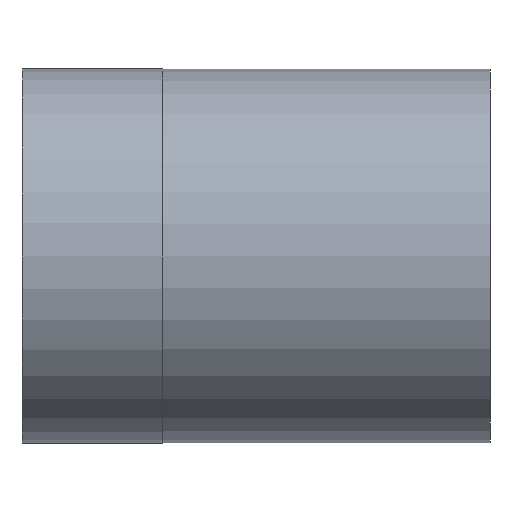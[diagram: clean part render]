
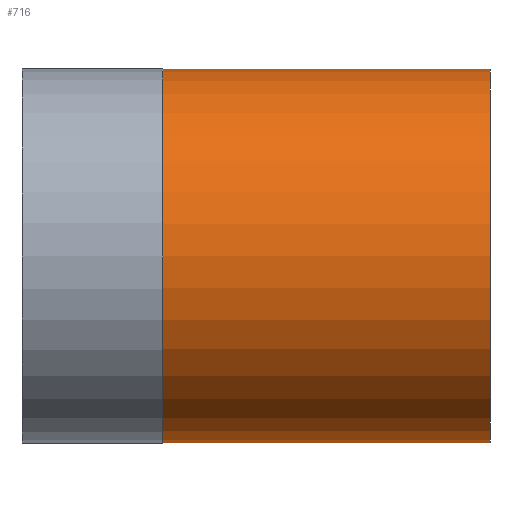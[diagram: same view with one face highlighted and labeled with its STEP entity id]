
A CAD part, left-side view. The second image highlights one B-rep face of the part: STEP entity #716.
In plain terms, the highlighted cylindrical face has radius 7.98 mm (diameter 15.96 mm), a partial arc.
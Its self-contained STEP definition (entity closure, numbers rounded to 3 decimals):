
#34 = CARTESIAN_POINT ( 'NONE',  ( 0., -20.255, 7.98 ) ) ;
#35 = LINE ( 'NONE', #34, #173 ) ;
#47 = DIRECTION ( 'NONE',  ( 0., -1., 0. ) ) ;
#48 = VECTOR ( 'NONE', #47, 1000. ) ;
#49 = CARTESIAN_POINT ( 'NONE',  ( 0., -20.255, -7.98 ) ) ;
#50 = LINE ( 'NONE', #49, #48 ) ;
#111 = DIRECTION ( 'NONE',  ( 0., 0., -1. ) ) ;
#112 = DIRECTION ( 'NONE',  ( 0., -1., 0. ) ) ;
#113 = AXIS2_PLACEMENT_3D ( 'NONE', #118, #112, #111 ) ;
#114 = CIRCLE ( 'NONE', #113, 7.98 ) ;
#115 = DIRECTION ( 'NONE',  ( 0., 0., -1. ) ) ;
#116 = DIRECTION ( 'NONE',  ( 0., -1., 0. ) ) ;
#117 = CYLINDRICAL_SURFACE ( 'NONE', #119, 7.98 ) ;
#118 = CARTESIAN_POINT ( 'NONE',  ( 0., 0., 0. ) ) ;
#119 = AXIS2_PLACEMENT_3D ( 'NONE', #125, #116, #115 ) ;
#120 = FACE_OUTER_BOUND ( 'NONE', #718, .T. ) ;
#125 = CARTESIAN_POINT ( 'NONE',  ( 0., -20.255, 0. ) ) ;
#172 = DIRECTION ( 'NONE',  ( 0., -1., 0. ) ) ;
#173 = VECTOR ( 'NONE', #172, 1000. ) ;
#635 = VERTEX_POINT ( 'NONE', #1254 ) ;
#640 = VERTEX_POINT ( 'NONE', #1214 ) ;
#641 = VERTEX_POINT ( 'NONE', #1213 ) ;
#645 = VERTEX_POINT ( 'NONE', #1210 ) ;
#658 = EDGE_CURVE ( 'NONE', #645, #635, #1188, .T. ) ;
#659 = ORIENTED_EDGE ( 'NONE', *, *, #740, .T. ) ;
#661 = ORIENTED_EDGE ( 'NONE', *, *, #658, .T. ) ;
#664 = ORIENTED_EDGE ( 'NONE', *, *, #747, .F. ) ;
#668 = ORIENTED_EDGE ( 'NONE', *, *, #717, .F. ) ;
#716 = ADVANCED_FACE ( 'NONE', ( #120 ), #117, .T. ) ;
#717 = EDGE_CURVE ( 'NONE', #641, #640, #114, .T. ) ;
#718 = EDGE_LOOP ( 'NONE', ( #664, #661, #659, #668 ) ) ;
#740 = EDGE_CURVE ( 'NONE', #635, #640, #50, .T. ) ;
#747 = EDGE_CURVE ( 'NONE', #645, #641, #35, .T. ) ;
#1155 = DIRECTION ( 'NONE',  ( 0., 0., -1. ) ) ;
#1156 = DIRECTION ( 'NONE',  ( 0., -1., 0. ) ) ;
#1157 = CARTESIAN_POINT ( 'NONE',  ( 0., 13.98, 0. ) ) ;
#1158 = AXIS2_PLACEMENT_3D ( 'NONE', #1157, #1156, #1155 ) ;
#1188 = CIRCLE ( 'NONE', #1158, 7.98 ) ;
#1210 = CARTESIAN_POINT ( 'NONE',  ( 0., 13.98, 7.98 ) ) ;
#1213 = CARTESIAN_POINT ( 'NONE',  ( 0., 0., 7.98 ) ) ;
#1214 = CARTESIAN_POINT ( 'NONE',  ( 0., 0., -7.98 ) ) ;
#1254 = CARTESIAN_POINT ( 'NONE',  ( 0., 13.98, -7.98 ) ) ;
